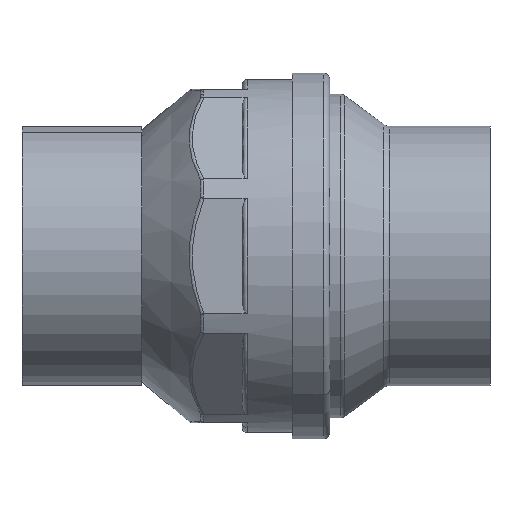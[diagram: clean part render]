
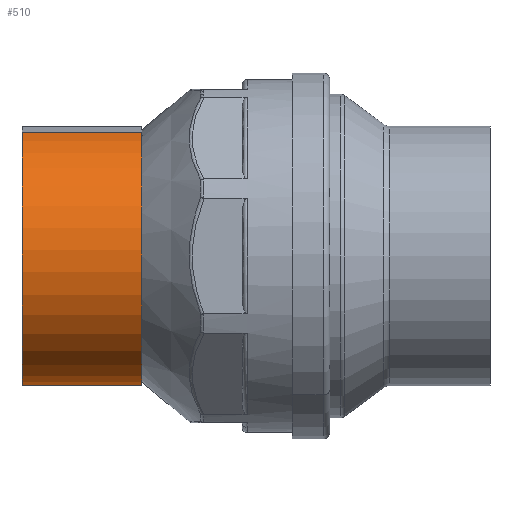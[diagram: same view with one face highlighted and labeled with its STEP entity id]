
A CAD part, left-side view. The second image highlights one B-rep face of the part: STEP entity #510.
In plain terms, the highlighted cylindrical face has radius 40 mm (diameter 80 mm), a partial arc.
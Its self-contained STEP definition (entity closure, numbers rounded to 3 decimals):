
#38 = ORIENTED_EDGE ( 'NONE', *, *, #5649, .T. ) ;
#289 = CARTESIAN_POINT ( 'NONE',  ( 0., 1., 40. ) ) ;
#510 = ADVANCED_FACE ( 'NONE', ( #624 ), #6277, .T. ) ;
#624 = FACE_OUTER_BOUND ( 'NONE', #6110, .T. ) ;
#772 = CIRCLE ( 'NONE', #8752, 40. ) ;
#1608 = VERTEX_POINT ( 'NONE', #4411 ) ;
#1686 = ORIENTED_EDGE ( 'NONE', *, *, #5840, .F. ) ;
#2565 = VERTEX_POINT ( 'NONE', #4336 ) ;
#3109 = CARTESIAN_POINT ( 'NONE',  ( 0., 1., 0. ) ) ;
#3232 = AXIS2_PLACEMENT_3D ( 'NONE', #3109, #11034, #4236 ) ;
#3843 = EDGE_CURVE ( 'NONE', #2565, #1608, #14140, .T. ) ;
#4236 = DIRECTION ( 'NONE',  ( 0., 0., -1. ) ) ;
#4336 = CARTESIAN_POINT ( 'NONE',  ( 0., 38., -40. ) ) ;
#4411 = CARTESIAN_POINT ( 'NONE',  ( 0., 1., -40. ) ) ;
#4936 = DIRECTION ( 'NONE',  ( 0., -1., 0. ) ) ;
#5413 = ORIENTED_EDGE ( 'NONE', *, *, #13456, .F. ) ;
#5549 = DIRECTION ( 'NONE',  ( 0., -1., 0. ) ) ;
#5649 = EDGE_CURVE ( 'NONE', #12182, #2565, #772, .T. ) ;
#5717 = LINE ( 'NONE', #14587, #13354 ) ;
#5840 = EDGE_CURVE ( 'NONE', #12182, #9886, #5717, .T. ) ;
#6110 = EDGE_LOOP ( 'NONE', ( #1686, #38, #7075, #5413 ) ) ;
#6120 = VECTOR ( 'NONE', #5549, 1000. ) ;
#6277 = CYLINDRICAL_SURFACE ( 'NONE', #7523, 40. ) ;
#6353 = CARTESIAN_POINT ( 'NONE',  ( 0., 38., 40. ) ) ;
#6602 = DIRECTION ( 'NONE',  ( 0., -1., 0. ) ) ;
#7075 = ORIENTED_EDGE ( 'NONE', *, *, #3843, .T. ) ;
#7523 = AXIS2_PLACEMENT_3D ( 'NONE', #11006, #13287, #9900 ) ;
#7782 = CARTESIAN_POINT ( 'NONE',  ( 0., 0., -40. ) ) ;
#8752 = AXIS2_PLACEMENT_3D ( 'NONE', #11753, #4936, #12887 ) ;
#9886 = VERTEX_POINT ( 'NONE', #289 ) ;
#9900 = DIRECTION ( 'NONE',  ( 0., 0., -1. ) ) ;
#11006 = CARTESIAN_POINT ( 'NONE',  ( 0., 0., 0. ) ) ;
#11034 = DIRECTION ( 'NONE',  ( 0., -1., 0. ) ) ;
#11110 = CIRCLE ( 'NONE', #3232, 40. ) ;
#11753 = CARTESIAN_POINT ( 'NONE',  ( 0., 38., 0. ) ) ;
#12182 = VERTEX_POINT ( 'NONE', #6353 ) ;
#12887 = DIRECTION ( 'NONE',  ( 0., 0., -1. ) ) ;
#13287 = DIRECTION ( 'NONE',  ( 0., -1., 0. ) ) ;
#13354 = VECTOR ( 'NONE', #6602, 1000. ) ;
#13456 = EDGE_CURVE ( 'NONE', #9886, #1608, #11110, .T. ) ;
#14140 = LINE ( 'NONE', #7782, #6120 ) ;
#14587 = CARTESIAN_POINT ( 'NONE',  ( 0., 0., 40. ) ) ;
